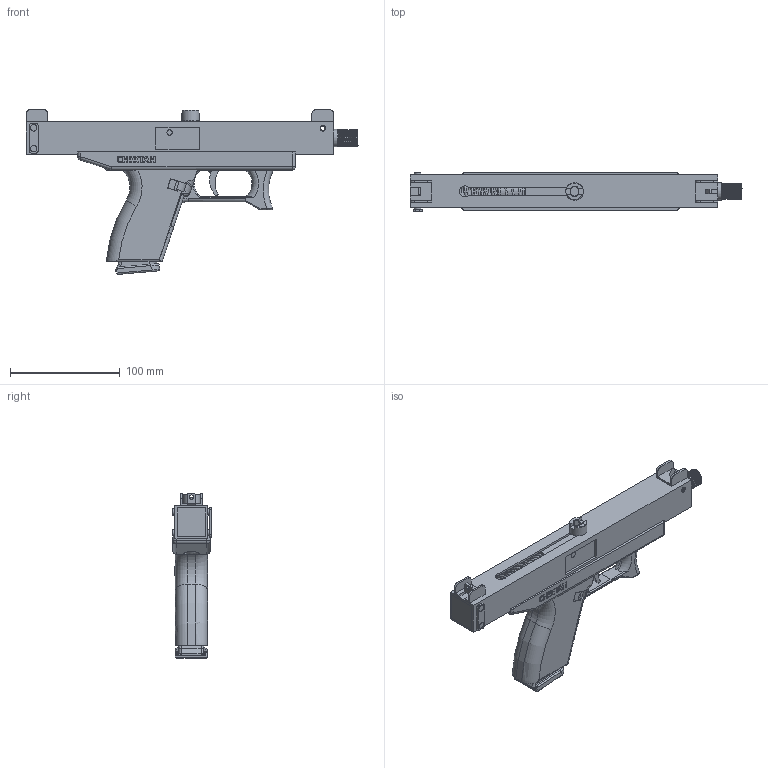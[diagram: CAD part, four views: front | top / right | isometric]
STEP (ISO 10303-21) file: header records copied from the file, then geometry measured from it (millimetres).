
FILE_DESCRIPTION(/* description */ (''),/* implementation_level */ '2;1');
FILE_NAME(/* name */ '',/* time_stamp */ '',/* author */ (''),/* organization */ (''),/* preprocessor_version */ 'ST-DEVELOPER v18.1',/* originating_system */ 'Autodesk Translation Framework v9.7.1.1290',/* authorisation */ '');
FILE_SCHEMA (('AUTOMOTIVE_DESIGN { 1 0 10303 214 3 1 1 }'));
Products named in the file (47): CHEETAH; Lower receiver; Magazine Catch; Sear (1); Sear pivot bolt; Sear Spring; Receiver Bolt 1; Receiver Bolt 2; Lower Receiver Body; Feed Ramp; Feed Ramp (1); Trigger (Printable) (1); Upper Receiver; Upper Receiver (30mm x 2mm Square Tube); Recoil Spring; Front sight; Rear Sight; Bolt Assembly (1); Bolt Assembly; Breech Insert; Fixed Firing Pin; Bolt body; Cocking Handle; Rear Weight; Bolt insert tang; Extractor; Extractor pin; Bolt Insert Pin 2; Bolt Insert Pin 1; Extractor Spring; Ejector; Back Plug; Back Plug Takedown Pin; Barrel Assembly; 9x19mm Barrel OD16mm Chambering Depth: 15.95mm  +-0.01mm; 25mm barrel block; 5mm dia Roll Pin; Loaded Cartridge; 9 mm Parabellum Cartridge Case 1; 9mm Parabellum Primer 1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
Assembly tree (46 placements, depth 5):
  CHEETAH
    Lower receiver
      Magazine Catch
      Sear (1)
        Sear pivot bolt
        Sear Spring
      Receiver Bolt 1
      Receiver Bolt 2
      Lower Receiver Body
      Feed Ramp
        Feed Ramp (1)
      Trigger (Printable) (1)
    Upper Receiver
      Upper Receiver (30mm x 2mm Square Tube)
      Recoil Spring
      Front sight
      Rear Sight
      Bolt Assembly (1)
        Bolt Assembly
        Breech Insert
        Fixed Firing Pin
        Bolt body
        Cocking Handle
        Rear Weight
        Bolt insert tang
        Extractor
        Extractor pin
        Bolt Insert Pin 2
        Bolt Insert Pin 1
        Extractor Spring
      Ejector
      Back Plug
      Back Plug Takedown Pin
      Barrel Assembly
        9x19mm Barrel OD16mm Chambering Depth: 15.95mm  +-0.01mm
        25mm barrel block
        5mm dia Roll Pin
        Loaded Cartridge
          9 mm Parabellum Cartridge Case 1
          9mm Parabellum Primer 1
          9 mm Parabellum Projectile 1
      Rubber buffer pad
    Magazine
      Housing
      Baseplate
      Follower
      Tab
Bounding box: 302 x 35 x 149.89 mm (x, y, z)
Volume: 330044.1 mm3; surface area: 218064.2 mm2
Topology: 39 solids, 42 shells, 1967 faces, 5229 edges, 3373 vertices
Faces by surface type: plane 905, bspline 501, cylinder 450, cone 42, torus 41, sphere 28
Full cylindrical faces by diameter (mm): 0.5 x2, 1.3 x1, 3 x6, 3.6 x1, 4 x6, 4.318 x1, 4.701 x11, 5 x9, 5.334 x1, 5.983 x6, 5.988 x6, 6 x9, 6.03 x1, 6.9 x2, 7.973 x1, 8 x21, 8.051 x7, 8.79 x1, 9.03 x1, 9.96 x1, 10 x8, 10.5 x1, 13.402 x8, 14 x4, 15 x9, 16 x3, 20 x1
Entity records: 102195 total; most frequent: CARTESIAN_POINT 54987, ORIENTED_EDGE 10440, DIRECTION 8249, EDGE_CURVE 5220, VERTEX_POINT 3373, LINE 2901, VECTOR 2901, AXIS2_PLACEMENT_3D 2674
